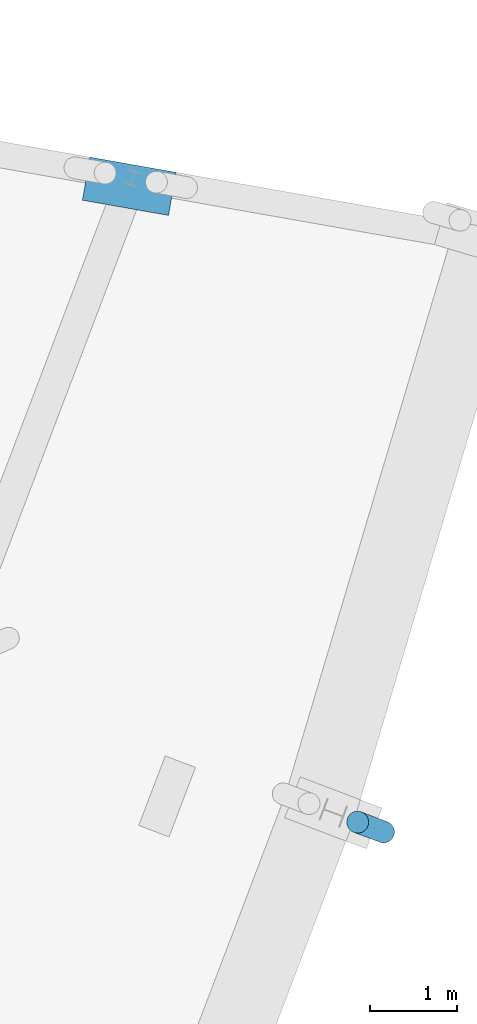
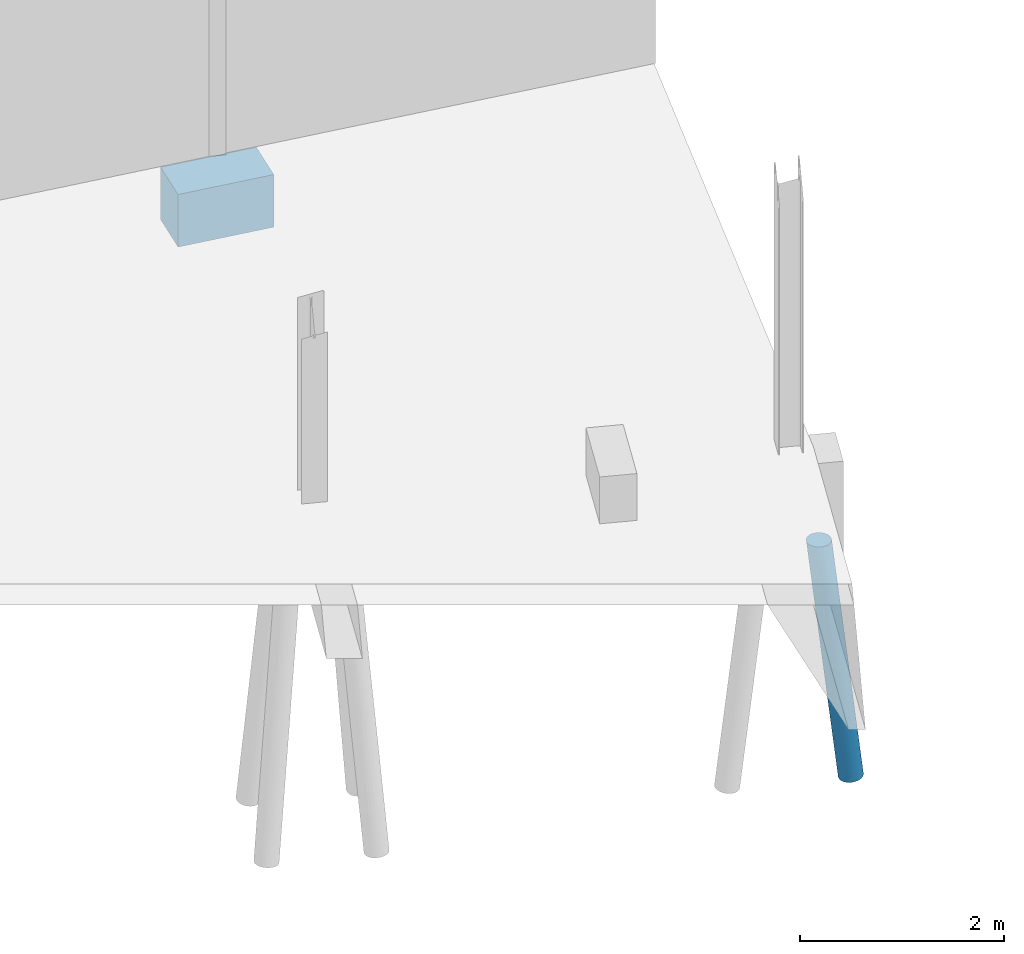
# One storey, part 29 of 46: 1 footing, 1 pile.
"""IFC2X3 building model written with IfcOpenShell, lengths in millimetres."""

import ifcopenshell
import ifcopenshell.guid

model = None  # the IFC model being written
_history = None  # IfcOwnerHistory: only IFC2X3 demands one
_inside = {}  # id of a spatial element -> (the spatial element, [elements in it])
_under = {}  # id of a project, library or spatial element -> (it, [spatial elements below it])
_declared = {}  # id of a project -> (the project, [libraries it declares])
_typed = {}  # id of a type object -> (the type object, [elements of that type])
_made_of = {}  # id of a material, layer set ... -> (it, [elements and type objects made of it])


def new_model(schema):
    """Start an empty IFC model of exactly this schema.

    Asked for "IFC4X3", IfcOpenShell would pick the latest addendum, in which some entities
    have other attributes; the version numbers below select the first issue.
    IFC2X3 requires an IfcOwnerHistory on every rooted entity: one is made here for all.
    """
    global model, _history
    if schema == "IFC4X3":
        model = ifcopenshell.file(schema_version=(4, 3, 0, 0))
    else:
        model = ifcopenshell.file(schema=schema)
    _inside.clear()
    _under.clear()
    _declared.clear()
    _typed.clear()
    _made_of.clear()
    _history = None
    if model.schema == "IFC2X3":
        org = make("IfcOrganization", Name="unknown")
        user = make(
            "IfcPersonAndOrganization",
            ThePerson=make("IfcPerson", FamilyName="unknown"),
            TheOrganization=org,
        )
        app = make(
            "IfcApplication",
            ApplicationDeveloper=org,
            Version="unknown",
            ApplicationFullName="unknown",
            ApplicationIdentifier="unknown",
        )
        _history = make(
            "IfcOwnerHistory",
            OwningUser=user,
            OwningApplication=app,
            ChangeAction="ADDED",
            CreationDate=0,
        )
    return model


def make(cls, **values):
    """One entity of the class cls with the attributes given. An attribute that is None is left unset."""
    return model.create_entity(
        cls, **{name: value for name, value in values.items() if value is not None}
    )


def entity(cls, *values):
    """Any entity or typed value of the class cls, its attributes in the order of the schema. None: left unset."""
    e = model.create_entity(cls)
    for i, value in enumerate(values):
        if value is not None:
            e[i] = value
    return e


def rooted(cls, **values):
    """An entity with a GlobalId (a new one), such as an element, a storey or a relation."""
    return make(cls, GlobalId=ifcopenshell.guid.new(), OwnerHistory=_history, **values)


def si_unit(unit_type, name, prefix=None):
    """IfcSIUnit, for example si_unit("LENGTHUNIT", "METRE", prefix="MILLI")."""
    return make("IfcSIUnit", UnitType=unit_type, Prefix=prefix, Name=name)


def converted_unit(unit_type, name, factor, base, dimensions=None, offset=None):
    """IfcConversionBasedUnit, such as the inch: factor (a typed value) times the base unit."""
    return make(
        "IfcConversionBasedUnit"
        if offset is None
        else "IfcConversionBasedUnitWithOffset",
        ConversionOffset=offset,
        Dimensions=None
        if dimensions is None
        else entity("IfcDimensionalExponents", *dimensions),
        UnitType=unit_type,
        Name=name,
        ConversionFactor=make(
            "IfcMeasureWithUnit", ValueComponent=factor, UnitComponent=base
        ),
    )


def derived_unit(unit_type, elements):
    """IfcDerivedUnit: a product of units, each with its exponent."""
    return make(
        "IfcDerivedUnit",
        Elements=[
            make("IfcDerivedUnitElement", Unit=unit, Exponent=power)
            for unit, power in elements
        ],
        UnitType=unit_type,
    )


def assignment(units):
    """IfcUnitAssignment: the units of a project."""
    return None if units is None else make("IfcUnitAssignment", Units=units)


def point(xyz):
    """IfcCartesianPoint."""
    return None if xyz is None else make("IfcCartesianPoint", Coordinates=xyz)


def direction(xyz):
    """IfcDirection."""
    return None if xyz is None else make("IfcDirection", DirectionRatios=xyz)


def frame(location, z_axis=None, x_axis=None):
    """IfcAxis2Placement3D, a coordinate frame: its origin and axes. An axis left out is left unset."""
    return make(
        "IfcAxis2Placement3D",
        Location=point(location),
        Axis=direction(z_axis),
        RefDirection=direction(x_axis),
    )


def frame_2d(location, x_axis=None):
    """IfcAxis2Placement2D, a coordinate frame in the plane: its origin and x axis."""
    return make(
        "IfcAxis2Placement2D", Location=point(location), RefDirection=direction(x_axis)
    )


def origin():
    """The frame at (0, 0, 0) with its axes left unset."""
    return frame((0.0, 0.0, 0.0))


def place(relative_to, where):
    """IfcLocalPlacement: puts the frame where relative to a parent placement (None: the world)."""
    return make(
        "IfcLocalPlacement", PlacementRelTo=relative_to, RelativePlacement=where
    )


def context(
    kind, dimensions, precision=None, world=None, true_north=None, identifier=None
):
    """IfcGeometricRepresentationContext, for example the 3D "Model" context."""
    return make(
        "IfcGeometricRepresentationContext",
        ContextIdentifier=identifier,
        ContextType=kind,
        CoordinateSpaceDimension=dimensions,
        Precision=precision,
        WorldCoordinateSystem=world,
        TrueNorth=true_north,
    )


def subcontext(parent, identifier, kind, view, scale=None):
    """IfcGeometricRepresentationSubContext, for example "Body" below "Model"."""
    return make(
        "IfcGeometricRepresentationSubContext",
        ContextIdentifier=identifier,
        ContextType=kind,
        ParentContext=parent,
        TargetScale=scale,
        TargetView=view,
    )


def project(units=None, contexts=None):
    """IfcProject with its units and contexts."""
    return rooted(
        "IfcProject",
        Name="project",
        RepresentationContexts=contexts,
        UnitsInContext=assignment(units),
    )


def spatial(cls, under=None, at=None, **own):
    """A site, building, storey or space (cls), placed at a placement, below another one or the project."""
    s = rooted(cls, ObjectPlacement=at, **own)
    if under is not None:
        _under.setdefault(under.id(), (under, []))[1].append(s)
    return s


def profile(cls, at=None, kind="AREA", **sizes):
    """A parametric profile (cls). Its sizes go by their IFC names, for example OverallWidth=200.0."""
    return make(cls, ProfileType=kind, Position=at, **sizes)


def rectangle(**sizes):
    """IfcRectangleProfileDef."""
    return profile("IfcRectangleProfileDef", **sizes)


def extrude(swept, where, along, depth):
    """IfcExtrudedAreaSolid: the profile swept, set in the frame where, extruded along a direction by depth."""
    return make(
        "IfcExtrudedAreaSolid",
        SweptArea=swept,
        Position=where,
        ExtrudedDirection=direction(along),
        Depth=depth,
    )


def faces_of(points, faces, orient=None, outer=None):
    """IfcFace entities. A face is a list of loops; a loop is a list of indices into points, from 0.

    orient and outer hold one flag for each loop. By default every Orientation is true, the
    first loop of a face is its IfcFaceOuterBound and the others are IfcFaceBound.
    """
    made = []
    for i, loops in enumerate(faces):
        bounds = []
        for j, loop in enumerate(loops):
            is_outer = j == 0 if outer is None else outer[i][j]
            bounds.append(
                make(
                    "IfcFaceOuterBound" if is_outer else "IfcFaceBound",
                    Bound=make("IfcPolyLoop", Polygon=[points[k] for k in loop]),
                    Orientation=True if orient is None else orient[i][j],
                )
            )
        made.append(make("IfcFace", Bounds=bounds))
    return made


def faceted_brep(points, faces, orient=None, outer=None, voids=None):
    """IfcFacetedBrep: a solid bounded by flat faces; with voids (closed shells), ...WithVoids."""
    shared = [point(p) for p in points]
    hull = make("IfcClosedShell", CfsFaces=faces_of(shared, faces, orient, outer))
    if voids is None:
        return make("IfcFacetedBrep", Outer=hull)
    return make(
        "IfcFacetedBrepWithVoids",
        Outer=hull,
        Voids=[
            make(cls, CfsFaces=faces_of(shared, fs, o, b)) for cls, fs, o, b in voids
        ],
    )


def shape(context_of_items, identifier, shape_type, items):
    """IfcShapeRepresentation: the items that make up one representation, for example the "Body"."""
    return make(
        "IfcShapeRepresentation",
        ContextOfItems=context_of_items,
        RepresentationIdentifier=identifier,
        RepresentationType=shape_type,
        Items=items,
    )


def source(mapping_origin, context_of_items, identifier, shape_type, items):
    """IfcRepresentationMap: a shape defined once, which mapped items show again and again."""
    return make(
        "IfcRepresentationMap",
        MappingOrigin=mapping_origin,
        MappedRepresentation=shape(context_of_items, identifier, shape_type, items),
    )


def transform(
    local_origin,
    x_axis=None,
    y_axis=None,
    z_axis=None,
    scale=None,
    scale2=None,
    scale3=None,
    uniform=True,
):
    """IfcCartesianTransformationOperator3D, or its non-uniform kind. x_axis, y_axis, z_axis: its Axis1, 2, 3."""
    if uniform:
        return make(
            "IfcCartesianTransformationOperator3D",
            Axis1=direction(x_axis),
            Axis2=direction(y_axis),
            LocalOrigin=point(local_origin),
            Scale=scale,
            Axis3=direction(z_axis),
        )
    return make(
        "IfcCartesianTransformationOperator3DnonUniform",
        Axis1=direction(x_axis),
        Axis2=direction(y_axis),
        LocalOrigin=point(local_origin),
        Scale=scale,
        Axis3=direction(z_axis),
        Scale2=scale2,
        Scale3=scale3,
    )


def mapped(mapping_source, mapping_target):
    """IfcMappedItem: shows the shape of a source again, moved by a transform."""
    return make(
        "IfcMappedItem", MappingSource=mapping_source, MappingTarget=mapping_target
    )


def material(Name=None, Category=None):
    """IfcMaterial."""
    return make("IfcMaterial", Name=Name, Category=Category)


def made_of(thing, what):
    """Note that an element or type object is made of a material, layer set ...; save() writes the relation."""
    if what is not None:
        _made_of.setdefault(what.id(), (what, []))[1].append(thing)
    return thing


def type_object(cls, material=None, **own):
    """A type object (cls), such as IfcWallType, which elements share."""
    return made_of(rooted(cls, **own), material)


def type_shapes(of_type, sources):
    """Give a type object the sources (RepresentationMaps) that its elements show as mapped items."""
    of_type.RepresentationMaps = sources


def element(
    cls,
    number,
    at=None,
    inside=None,
    cuts=None,
    type_object=None,
    material=None,
    context=None,
    identifier="Body",
    shape_type=None,
    held_by="IfcProductDefinitionShape",
    body=None,
    shapes=None,
    **own,
):
    """One element of the class cls, such as IfcWall. Its Tag is "e" and its number.

    at: its placement. inside: the storey or other place that contains it. cuts: it is an
    opening in that element (IfcRelVoidsElement). A single representation is given by context,
    identifier, shape_type and body (its items); several are given by shapes. held_by: the class
    of the entity that holds the representations. save() writes the other relations.
    """
    e = rooted(cls, Tag="e%d" % number, ObjectPlacement=at, **own)
    if body is not None:
        shapes = [shape(context, identifier, shape_type, body)]
    if shapes is not None:
        e.Representation = make(held_by, Representations=shapes)
    if inside is not None:
        _inside.setdefault(inside.id(), (inside, []))[1].append(e)
    if cuts is not None:
        rooted(
            "IfcRelVoidsElement", RelatingBuildingElement=cuts, RelatedOpeningElement=e
        )
    if type_object is not None:
        _typed.setdefault(type_object.id(), (type_object, []))[1].append(e)
    return made_of(e, material)


def aggregate(whole, parts):
    """IfcRelAggregates: a whole, such as a stair, and the parts it consists of."""
    return rooted("IfcRelAggregates", RelatingObject=whole, RelatedObjects=parts)


def save(model, path):
    """Write the relations noted so far, then the file.

    IfcRelAggregates (storeys below a building ...), IfcRelContainedInSpatialStructure (elements
    in a storey), IfcRelDefinesByType, IfcRelAssociatesMaterial and IfcRelDeclares: one each for
    every whole, place, type object, material and project.
    """
    for whole, parts in _under.values():
        aggregate(whole, parts)
    for where, things in _inside.values():
        rooted(
            "IfcRelContainedInSpatialStructure",
            RelatedElements=things,
            RelatingStructure=where,
        )
    for kind, things in _typed.values():
        rooted("IfcRelDefinesByType", RelatedObjects=things, RelatingType=kind)
    for what, things in _made_of.values():
        rooted("IfcRelAssociatesMaterial", RelatedObjects=things, RelatingMaterial=what)
    for by, libraries in _declared.values():
        rooted("IfcRelDeclares", RelatingContext=by, RelatedDefinitions=libraries)
    model.write(path)


model = new_model("IFC2X3")

# Units and contexts
model_context = context("Model", 3, precision=0.01, world=origin(), true_north=direction((6.123233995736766e-17, 1.0)))
body_context = subcontext(model_context, "Body", "Model", "MODEL_VIEW")
ifc_project = project(units=[si_unit("LENGTHUNIT", "METRE", prefix="MILLI"), converted_unit("PLANEANGLEUNIT", "DEGREE", entity("IfcPlaneAngleMeasure", 0.017453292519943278), si_unit("PLANEANGLEUNIT", "RADIAN"), dimensions=[0, 0, 0, 0, 0, 0, 0]), si_unit("AREAUNIT", "SQUARE_METRE"), derived_unit("THERMALTRANSMITTANCEUNIT", [(si_unit("MASSUNIT", "GRAM", prefix="KILO"), 1), (si_unit("THERMODYNAMICTEMPERATUREUNIT", "KELVIN"), -1), (si_unit("TIMEUNIT", "SECOND"), -3)])], contexts=[model_context])

# Site, building, storey
site_placement = place(None, frame((-72937.88054949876, 11621.45624098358, 0.0), z_axis=(0.0, 0.0, 1.0), x_axis=(0.9346418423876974, -0.35559053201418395, 0.0)))
site = spatial("IfcSite", under=ifc_project, at=site_placement, Name="Default", CompositionType="ELEMENT")
building_placement = place(site_placement, origin())
building = spatial("IfcBuilding", under=site, at=building_placement, CompositionType="ELEMENT")
storey_placement = place(building_placement, origin())
storey = spatial("IfcBuildingStorey", under=building, at=storey_placement, Name="00 begane grond", CompositionType="ELEMENT", Elevation=0.0)

# Footing
ifc_material_1 = material(Name="beton_gewapend_ihw")
type_product_1 = type_object("IfcTypeProduct", Name="poer 500x1000x800mm", material=ifc_material_1)
shared_shape_1 = source(origin(), body_context, "Body", "SweptSolid", [
    extrude(rectangle(XDim=630.0000000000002, YDim=500.0000000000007, at=frame_2d((-33.33333333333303, 33.33333333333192), x_axis=(1.0, 0.0))), frame((61802.62580059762, 34567.11799344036, -451.66666666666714), z_axis=(0.9822397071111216, 0.18763037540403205, 0.0), x_axis=(0.0, 0.0, 1.0)), (0.0, 0.0, 1.0), 1000.0000000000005),
])
type_shapes(type_product_1, [shared_shape_1])
footing_placement = place(storey_placement, frame((0.0, 0.0, -60.0)))
element("IfcFooting", 1, at=footing_placement, inside=storey, type_object=type_product_1, material=ifc_material_1, Name="16.13_Poer rechthoek", ObjectType="betonpoer rechthoekig", PredefinedType="PILE_CAP", context=body_context, shape_type="MappedRepresentation", body=[
    mapped(shared_shape_1, transform((0.0, 0.0, 0.0), scale=1.0)),
])

# Pile
ifc_material_2 = material(Name="beton_gewapend_prefab-element_c45/55")
type_product_2 = type_object("IfcTypeProduct", Name="Type 01", material=ifc_material_2)
shared_shape_2 = source(origin(), body_context, "Body", "Brep", [
    faceted_brep([(72.36643070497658, 41.239861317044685, -1587.2480771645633), (115.53639022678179, 54.2354673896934, -1150.0), (124.838162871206, 27.815116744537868, -1150.0), (-182.0787577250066, 65.1457063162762, -1842.6627389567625), (-165.1894529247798, 41.33003827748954, -1588.4448595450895), (-111.09194578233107, 54.23546738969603, -1150.0), (15.031797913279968, 88.27496307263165, -1836.1297740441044), (32.98344934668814, 64.94314047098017, -1840.3127773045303), (-30.14575159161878, 64.60051474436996, -2410.3553271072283), (41.77006032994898, 0.0, -1925.992599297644), (80.6380595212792, 97.7289353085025, -1150.0), (100.55257203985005, 77.9362252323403, -1150.0), (-175.6519081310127, 115.48494156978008, -3184.035406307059), (-108.17343100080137, 106.74566752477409, -2732.5343267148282), (-180.54618184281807, 99.16916754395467, -3483.986786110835), (30.20851053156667, 121.8659890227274, -1150.0), (56.79144948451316, 112.62110848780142, -1150.0), (-42.91884640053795, 117.90464735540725, -1932.2038124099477), (-120.39371842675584, 27.81511674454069, -1150.0), (-245.70385641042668, 64.88368548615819, -2413.8437241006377), (-162.25875578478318, 88.50075404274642, -1830.9574517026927), (-242.98263969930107, 88.62069146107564, -2558.5627355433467), (-151.93048965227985, 53.33845094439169, -3561.073967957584), (-133.56769714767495, 28.49629953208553, -3474.2266886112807), (-194.4421984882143, 32.35238063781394, -4013.333582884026), (12.222467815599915, 106.275938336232, -1655.8961403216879), (-73.06982999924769, 124.27812918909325, -1949.1011896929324), (-80.64748703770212, 124.23668125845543, -1770.9263967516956), (-23.427620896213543, 124.20079095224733, -1508.6429901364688), (-240.21076201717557, 123.93060767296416, -3479.642475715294), (-314.4444444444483, 125.0, -4000.0), (-265.024992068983, 123.93060767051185, -3407.479310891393), (-117.33081280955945, 0.0, -3357.900457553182), (-190.20897761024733, 0.0, -4013.803940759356), (2.2222222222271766, 125.0, -1150.0), (-25.764066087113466, 121.86598902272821, -1150.0), (-326.96702366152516, 47.83542903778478, -3066.942589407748), (-375.2689438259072, 28.366113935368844, -3445.0277270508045), (-317.9689709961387, 23.60182842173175, -2920.157783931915), (-73.70805836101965, 23.187811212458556, -2945.6497765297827), (-39.92708990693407, 41.47720200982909, -2597.136214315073), (16.085837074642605, 41.18767244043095, -2093.938466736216), (-196.28435151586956, 123.47165352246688, -2760.095105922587), (-183.665203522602, 123.01104339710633, -3024.1067526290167), (-226.59670338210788, 88.38834764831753, -4009.7608601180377), (-252.3267110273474, 108.25317547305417, -4006.901970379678), (-148.27550792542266, 76.09517863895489, -3402.494577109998), (-206.8533741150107, 62.49999999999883, -4011.9545633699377), (-52.347005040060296, 112.62110848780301, -1150.0), (-99.40312932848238, 118.21391771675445, -1696.7443345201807), (-119.74622127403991, 106.37235269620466, -1653.229951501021), (-185.92128902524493, 102.46025049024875, -2194.904710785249), (-238.2779479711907, 106.2597512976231, -2718.3665211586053), (-42.820885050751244, 102.58547775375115, -2202.1491422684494), (-156.2252162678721, 118.09364807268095, -2204.9892079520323), (-319.0271104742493, 115.48494156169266, -3608.075760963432), (-264.72929865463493, 115.48494155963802, -3119.3954545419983), (-96.10812759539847, 77.93622523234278, -1150.0), (-76.19361507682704, 97.72893530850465, -1150.0), (-1.3402226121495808, 0.0, -2313.985145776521), (-44.451993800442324, 0.0, -2701.9910864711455), (-292.6922084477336, 91.63383624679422, -3034.349570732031), (-292.9202820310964, 72.79893776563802, -2886.1326580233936), (-227.31882224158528, 115.48494156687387, -3649.0376333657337), (-282.2899395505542, 120.74072828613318, -4003.5727227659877), (-221.60043037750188, 41.38232604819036, -2096.309657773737), (-209.76851175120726, 0.0, -1925.9934634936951), (-346.59894933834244, 120.74072828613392, -3996.4272772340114), (-376.56217786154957, 108.25317547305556, -3993.0980296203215), (-66.21715172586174, 88.15377228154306, -2568.4634430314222), (-129.97696806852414, 118.32629651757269, -2704.701988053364), (-123.5470158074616, 0.0, -1150.0), (-345.703852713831, 76.09517862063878, -3383.3196685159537), (-377.5274465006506, 52.979842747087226, -3542.5215927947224), (-275.88856858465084, 42.22399193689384, -2587.6075033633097), (-402.29218550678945, 88.38834764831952, -3990.239139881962), (-422.0355147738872, 62.50000000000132, -3988.0454366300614), (-331.8470727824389, 99.16916753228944, -3467.5525053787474), (-132.44344591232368, 124.68323586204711, -2281.458802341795), (-89.11715414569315, 71.65077909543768, -2899.5648185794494), (-96.52658231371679, 47.8354290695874, -3084.4998642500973), (127.99146025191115, 0.0, -1150.0), (-252.87925972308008, 0.0, -2313.9901952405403), (-122.93481462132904, 90.89446365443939, -3053.447507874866), (-438.679911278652, 0.0, -3986.1960592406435), (-434.4466904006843, 32.352380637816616, -3986.6664171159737), (-141.73877836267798, 124.16072599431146, -2576.5969257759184), (-210.06991733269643, 117.23436667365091, -2667.881922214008), (-367.33495948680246, 0.0, -3344.091493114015), (-295.9900076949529, 0.0, -2701.9869269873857), (-120.39371842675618, -27.815116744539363, -1150.0), (-111.09194578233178, -54.23546738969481, -1150.0), (-96.10812759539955, -77.93622523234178, -1150.0), (-76.1936150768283, -97.72893530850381, -1150.0), (-52.34700504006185, -112.62110848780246, -1150.0), (-25.76406608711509, -121.86598902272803, -1150.0), (2.222222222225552, -125.0, -1150.0), (30.20851053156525, -121.86598902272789, -1150.0), (56.79144948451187, -112.62110848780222, -1150.0), (80.63805952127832, -97.7289353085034, -1150.0), (100.55257203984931, -77.93622523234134, -1150.0), (115.53639022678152, -54.23546738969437, -1150.0), (124.83816287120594, -27.815116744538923, -1150.0), (-151.9304895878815, -53.338451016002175, -3561.073967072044), (-133.5676976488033, -28.496299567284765, -3474.2266930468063), (-96.52658225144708, -47.83542901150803, -3084.4998639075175), (-140.32328536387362, -105.94191584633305, -1832.1538289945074), (-126.78568187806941, -88.44799753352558, -1511.2211246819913), (-176.7825211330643, -87.58614607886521, -1953.453255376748), (-185.53475823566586, -41.3488976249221, -1771.6124540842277), (-98.5233768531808, -124.24251446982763, -1932.2861052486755), (-221.49211536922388, -66.66107193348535, -2205.8974607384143), (-159.3540506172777, -67.83984168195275, -1653.46778938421), (-312.10423006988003, -99.16916769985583, -3289.866922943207), (-352.8086337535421, -76.09517892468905, -3447.262699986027), (-402.2921855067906, -88.38834764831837, -3990.239139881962), (-235.41358059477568, -123.93060766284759, -3436.4678436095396), (-314.44444444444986, -125.0, -4000.0), (-282.2899395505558, -120.74072828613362, -4003.5727227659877), (-384.2243809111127, -47.83542945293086, -3582.258806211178), (-328.2998352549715, -47.83542988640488, -3078.9378969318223), (-362.94366171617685, -26.27355326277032, -3329.855963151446), (-376.562177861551, -108.25317547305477, -3993.0980296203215), (-226.59670338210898, -88.38834764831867, -4009.7608601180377), (-148.27550783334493, -76.0951785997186, -3402.49457655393), (-180.54618171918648, -99.16916751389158, -3483.9867853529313), (-104.92272192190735, -118.27912572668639, -1748.1433712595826), (-163.52036571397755, -118.46525212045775, -2280.4898650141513), (-39.927089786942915, -41.4772017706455, -2597.1362139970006), (-89.11715398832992, -71.6507788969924, -2899.5648184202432), (-221.11735801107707, -106.04994682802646, -2560.8655013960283), (-274.28881423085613, -82.15433137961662, -2785.484682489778), (-434.4466904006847, -32.35238063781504, -3986.6664171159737), (-422.03551477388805, -62.49999999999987, -3988.0454366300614), (-129.97696798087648, -118.32629644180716, -2704.7019892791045), (-141.73877802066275, -124.16072595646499, -2576.596925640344), (-180.90977316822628, -122.95522291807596, -3002.087637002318), (-232.56829871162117, -117.68101498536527, -2881.4778788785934), (-242.59310629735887, -123.930607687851, -3205.592340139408), (-180.2811496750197, -124.04234815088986, -2652.6852150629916), (-346.598949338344, -120.7407282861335, -3996.4272772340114), (-301.7888662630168, -115.48494161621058, -3452.931564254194), (-206.85337411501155, -62.50000000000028, -4011.9545633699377), (-29.559553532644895, -124.19873841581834, -1563.993853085), (-83.4987298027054, -124.18127902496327, -2050.828488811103), (-42.91884618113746, -117.90464729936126, -1932.2038118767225), (-30.14575143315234, -64.60051457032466, -2410.3553266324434), (32.983449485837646, -64.94314037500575, -1840.3127765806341), (15.03179802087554, -88.27496298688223, -1836.1297738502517), (12.222467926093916, -106.27593827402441, -1655.89614023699), (-42.820884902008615, -102.58547764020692, -2202.149142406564), (-73.70805863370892, -23.18781108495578, -2945.6497792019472), (72.36643080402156, -41.2398612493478, -1587.2480764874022), (16.08583725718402, -41.18767230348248, -2093.9384655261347), (-221.94118502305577, -91.78881553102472, -2399.105716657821), (-122.93481449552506, -90.89446347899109, -3053.447508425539), (-66.2171515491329, -88.15377212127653, -2568.463442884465), (-108.173430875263, -106.74566744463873, -2732.534326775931), (-262.27997921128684, -34.77836369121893, -2443.29023072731), (-252.32671102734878, -108.25317547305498, -4006.901970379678), (-227.31882233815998, -115.48494155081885, -3649.0376345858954), (-277.036285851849, -61.03344887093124, -2675.5040755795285), (-194.44219848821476, -32.35238063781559, -4013.333582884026), (-312.1095376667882, -26.52940126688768, -2872.8494770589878), (-175.65190824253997, -115.48494153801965, -3184.0354080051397)], [[[0, 1, 2]], [[3, 4, 5]], [[6, 7, 8]], [[0, 2, 9]], [[10, 11, 6]], [[12, 13, 14]], [[15, 16, 17]], [[18, 5, 4]], [[19, 20, 21]], [[22, 23, 24]], [[25, 16, 10]], [[26, 27, 28]], [[29, 30, 31]], [[23, 32, 33]], [[7, 6, 11]], [[34, 27, 35]], [[36, 37, 38]], [[23, 39, 32]], [[40, 8, 41]], [[31, 42, 43]], [[14, 44, 45]], [[19, 3, 20]], [[34, 15, 28]], [[46, 47, 44]], [[48, 49, 50]], [[51, 52, 21]], [[17, 25, 53]], [[46, 22, 47]], [[49, 54, 50]], [[31, 55, 56]], [[20, 57, 58]], [[41, 9, 59, 60]], [[21, 61, 62]], [[41, 7, 0]], [[63, 45, 64]], [[4, 65, 66]], [[57, 3, 5]], [[50, 51, 20]], [[55, 67, 68]], [[56, 42, 31]], [[13, 53, 69]], [[12, 70, 13]], [[66, 71, 18]], [[36, 72, 73]], [[31, 30, 67]], [[36, 38, 74]], [[21, 52, 61]], [[74, 62, 36]], [[36, 73, 37]], [[72, 75, 76]], [[72, 77, 75]], [[50, 20, 58]], [[46, 44, 14]], [[7, 41, 8]], [[42, 54, 78]], [[26, 78, 27]], [[79, 40, 80]], [[9, 2, 81]], [[82, 66, 65]], [[60, 39, 40]], [[83, 14, 13]], [[77, 68, 75]], [[84, 37, 85]], [[21, 62, 19]], [[29, 64, 30]], [[31, 43, 29]], [[83, 79, 46]], [[12, 14, 63]], [[68, 77, 55]], [[77, 61, 52]], [[64, 29, 63]], [[43, 70, 12]], [[7, 11, 1]], [[41, 0, 9]], [[1, 0, 7]], [[69, 6, 8]], [[69, 8, 79]], [[40, 79, 8]], [[18, 4, 66]], [[65, 4, 3]], [[19, 65, 3]], [[20, 3, 57]], [[65, 19, 74]], [[72, 36, 62]], [[86, 42, 78]], [[52, 87, 56]], [[69, 79, 83]], [[46, 79, 80]], [[13, 69, 83]], [[14, 83, 46]], [[6, 69, 53]], [[86, 17, 70]], [[6, 53, 25]], [[17, 53, 70]], [[6, 25, 10]], [[16, 25, 17]], [[80, 40, 39]], [[40, 41, 60]], [[80, 39, 23]], [[39, 60, 32]], [[80, 23, 22]], [[24, 23, 33]], [[80, 22, 46]], [[47, 22, 24]], [[74, 19, 62]], [[77, 72, 61]], [[62, 61, 72]], [[56, 77, 52]], [[42, 56, 87]], [[20, 51, 21]], [[51, 54, 52]], [[54, 49, 27]], [[51, 50, 54]], [[48, 50, 58]], [[53, 13, 70]], [[86, 70, 43]], [[86, 43, 42]], [[29, 43, 12]], [[67, 55, 31]], [[82, 65, 74]], [[38, 88, 89, 82]], [[88, 38, 37]], [[88, 37, 84]], [[76, 85, 73]], [[37, 73, 85]], [[76, 73, 72]], [[87, 54, 42]], [[87, 52, 54]], [[82, 74, 38]], [[56, 55, 77]], [[17, 86, 26]], [[27, 78, 54]], [[78, 26, 86]], [[15, 17, 28]], [[34, 28, 27]], [[26, 28, 17]], [[45, 63, 14]], [[12, 63, 29]], [[49, 35, 27]], [[35, 49, 48]], [[48, 58, 57, 5, 18, 71, 90, 91, 92, 93, 94, 95, 96, 97, 98, 99, 100, 101, 102, 81, 2, 1, 11, 10, 16, 15, 34, 35]], [[103, 104, 105]], [[9, 81, 102]], [[106, 107, 108]], [[91, 90, 109]], [[96, 95, 110]], [[109, 111, 112]], [[113, 114, 115]], [[116, 117, 118]], [[93, 106, 94]], [[119, 120, 121]], [[122, 113, 115]], [[112, 111, 108]], [[123, 124, 125]], [[126, 127, 110]], [[88, 84, 121]], [[90, 71, 66]], [[128, 129, 105]], [[130, 131, 113]], [[127, 126, 106]], [[119, 132, 133]], [[134, 135, 136]], [[137, 138, 139]], [[122, 140, 141]], [[124, 123, 142]], [[143, 144, 145]], [[146, 147, 148]], [[149, 150, 148]], [[114, 113, 131]], [[105, 104, 151]], [[144, 134, 145]], [[152, 153, 9]], [[113, 122, 141]], [[98, 97, 145]], [[126, 95, 94]], [[99, 148, 100]], [[137, 141, 138]], [[154, 131, 130]], [[105, 151, 128]], [[138, 140, 117]], [[138, 117, 116]], [[155, 156, 157]], [[143, 97, 96]], [[66, 158, 109]], [[159, 160, 118]], [[134, 150, 145]], [[102, 101, 152]], [[105, 124, 103]], [[109, 158, 111]], [[156, 146, 148]], [[91, 112, 92]], [[156, 155, 129]], [[101, 100, 147]], [[147, 152, 101]], [[148, 99, 149]], [[150, 157, 156]], [[111, 158, 161]], [[109, 90, 66]], [[114, 133, 115]], [[113, 141, 137]], [[125, 159, 123]], [[59, 9, 153]], [[33, 104, 162]], [[156, 129, 146]], [[136, 139, 138]], [[120, 158, 163]], [[164, 116, 160]], [[133, 114, 119]], [[111, 161, 131]], [[120, 114, 161]], [[154, 108, 111]], [[130, 113, 137]], [[141, 140, 138]], [[121, 120, 163]], [[158, 66, 82, 89]], [[159, 125, 160]], [[125, 155, 157]], [[102, 152, 9]], [[153, 152, 147]], [[146, 153, 147]], [[148, 147, 100]], [[153, 146, 128]], [[124, 105, 129]], [[137, 127, 130]], [[139, 136, 135]], [[130, 127, 106]], [[139, 144, 110]], [[139, 127, 137]], [[127, 139, 110]], [[128, 146, 129]], [[125, 124, 155]], [[129, 155, 124]], [[164, 125, 157]], [[164, 157, 134]], [[148, 150, 156]], [[157, 150, 134]], [[98, 145, 149]], [[150, 149, 145]], [[98, 149, 99]], [[109, 112, 91]], [[59, 153, 128]], [[151, 32, 60]], [[32, 151, 104]], [[32, 104, 33]], [[142, 162, 103]], [[104, 103, 162]], [[142, 103, 124]], [[106, 126, 94]], [[126, 110, 95]], [[116, 164, 136]], [[144, 135, 134]], [[134, 136, 164]], [[116, 136, 138]], [[121, 84, 132]], [[120, 119, 114]], [[119, 121, 132]], [[89, 88, 163]], [[121, 163, 88]], [[163, 158, 89]], [[128, 151, 60]], [[128, 60, 59]], [[107, 93, 92]], [[107, 92, 112]], [[130, 106, 154]], [[93, 107, 106]], [[108, 107, 112]], [[135, 144, 139]], [[96, 110, 143]], [[97, 143, 145]], [[144, 143, 110]], [[118, 160, 116]], [[164, 160, 125]], [[131, 161, 114]], [[120, 161, 158]], [[131, 154, 111]], [[108, 154, 106]], [[115, 133, 132, 84, 85, 76, 75, 68, 67, 30, 64, 45, 44, 47, 24, 33, 162, 142, 123, 159, 118, 117, 140, 122]]]),
])
type_shapes(type_product_2, [shared_shape_2])
pile_placement = place(storey_placement, frame((67330.00015558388, 28760.0, 0.0), z_axis=(0.0, 0.0, 1.0), x_axis=(-1.0, 0.0, 0.0)))
element("IfcPile", 2, at=pile_placement, inside=storey, type_object=type_product_2, material=ifc_material_2, Name="17.21_Prefab funderingspaal rond", ObjectType="prefab paal rond", PredefinedType="NOTDEFINED", context=body_context, shape_type="MappedRepresentation", body=[
    mapped(shared_shape_2, transform((0.0, 0.0, 0.0), scale=1.0)),
])

save(model, "model.ifc")
